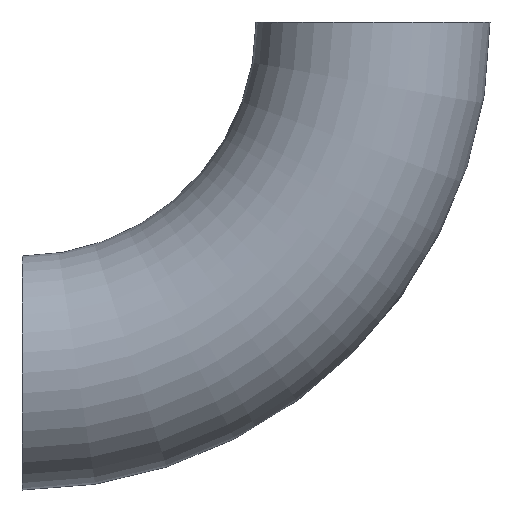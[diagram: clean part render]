
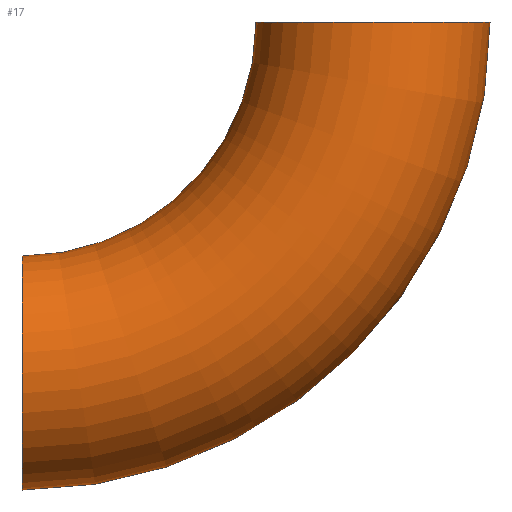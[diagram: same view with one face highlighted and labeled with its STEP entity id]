
A CAD part, front view. The second image highlights one B-rep face of the part: STEP entity #17.
In plain terms, the highlighted toroidal (fillet/blend) face has major radius 47.625 mm and minor radius 15.875 mm.
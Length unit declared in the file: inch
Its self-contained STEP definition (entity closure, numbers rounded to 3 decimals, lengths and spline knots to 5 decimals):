
#6 = DIRECTION ( 'NONE',  ( 1., 0., 0. ) ) ;
#9 = VERTEX_POINT ( 'NONE', #46 ) ;
#13 = DIRECTION ( 'NONE',  ( 0., -1., 0. ) ) ;
#17 = ADVANCED_FACE ( 'NONE', ( #224 ), #108, .T. ) ;
#26 = ORIENTED_EDGE ( 'NONE', *, *, #223, .F. ) ;
#31 = ORIENTED_EDGE ( 'NONE', *, *, #226, .F. ) ;
#38 = CIRCLE ( 'NONE', #191, 2.5 ) ;
#46 = CARTESIAN_POINT ( 'NONE',  ( -1.875, 0., -1.25 ) ) ;
#57 = CARTESIAN_POINT ( 'NONE',  ( -1.875, 0., -1.875 ) ) ;
#74 = DIRECTION ( 'NONE',  ( 0., 0., -1. ) ) ;
#81 = VERTEX_POINT ( 'NONE', #193 ) ;
#82 = VERTEX_POINT ( 'NONE', #255 ) ;
#86 = DIRECTION ( 'NONE',  ( 0., 0., 1. ) ) ;
#88 = ORIENTED_EDGE ( 'NONE', *, *, #222, .T. ) ;
#96 = EDGE_LOOP ( 'NONE', ( #120, #88, #26, #31 ) ) ;
#102 = CARTESIAN_POINT ( 'NONE',  ( -1.875, 0., 0. ) ) ;
#108 = TOROIDAL_SURFACE ( 'NONE', #204, 1.875, 0.625 ) ;
#113 = CIRCLE ( 'NONE', #186, 1.25 ) ;
#120 = ORIENTED_EDGE ( 'NONE', *, *, #220, .T. ) ;
#128 = DIRECTION ( 'NONE',  ( 0., -1., 0. ) ) ;
#151 = DIRECTION ( 'NONE',  ( 0., -1., 0. ) ) ;
#152 = CARTESIAN_POINT ( 'NONE',  ( 0.625, 0., 0. ) ) ;
#167 = DIRECTION ( 'NONE',  ( 1., 0., 0. ) ) ;
#178 = DIRECTION ( 'NONE',  ( 0., 0., -1. ) ) ;
#186 = AXIS2_PLACEMENT_3D ( 'NONE', #241, #13, #74 ) ;
#189 = AXIS2_PLACEMENT_3D ( 'NONE', #242, #86, #6 ) ;
#191 = AXIS2_PLACEMENT_3D ( 'NONE', #102, #128, #178 ) ;
#192 = AXIS2_PLACEMENT_3D ( 'NONE', #57, #167, #212 ) ;
#193 = CARTESIAN_POINT ( 'NONE',  ( -0.625, 0., 0. ) ) ;
#200 = DIRECTION ( 'NONE',  ( 0., 0., -1. ) ) ;
#204 = AXIS2_PLACEMENT_3D ( 'NONE', #229, #151, #200 ) ;
#212 = DIRECTION ( 'NONE',  ( 0., 0., -1. ) ) ;
#220 = EDGE_CURVE ( 'NONE', #9, #82, #233, .T. ) ;
#222 = EDGE_CURVE ( 'NONE', #82, #246, #38, .T. ) ;
#223 = EDGE_CURVE ( 'NONE', #81, #246, #249, .T. ) ;
#224 = FACE_OUTER_BOUND ( 'NONE', #96, .T. ) ;
#226 = EDGE_CURVE ( 'NONE', #9, #81, #113, .T. ) ;
#229 = CARTESIAN_POINT ( 'NONE',  ( -1.875, 0., 0. ) ) ;
#233 = CIRCLE ( 'NONE', #192, 0.625 ) ;
#241 = CARTESIAN_POINT ( 'NONE',  ( -1.875, 0., 0. ) ) ;
#242 = CARTESIAN_POINT ( 'NONE',  ( 0., 0., 0. ) ) ;
#246 = VERTEX_POINT ( 'NONE', #152 ) ;
#249 = CIRCLE ( 'NONE', #189, 0.625 ) ;
#255 = CARTESIAN_POINT ( 'NONE',  ( -1.875, 0., -2.5 ) ) ;
